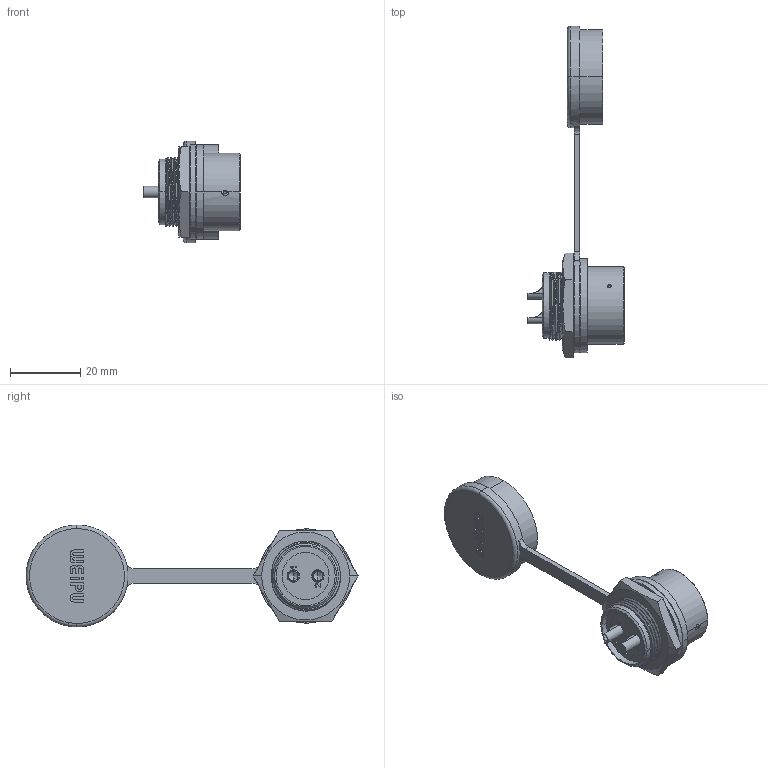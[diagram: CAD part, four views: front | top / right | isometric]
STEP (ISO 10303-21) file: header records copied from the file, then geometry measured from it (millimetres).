
FILE_DESCRIPTION((''),'2;1');
FILE_NAME('MS','2021-02-23T',('Administrator'),(''),'CREO PARAMETRIC BY PTC INC, 2016130','CREO PARAMETRIC BY PTC INC, 2016130','');
FILE_SCHEMA(('AUTOMOTIVE_DESIGN { 1 0 10303 214 1 1 1 1 }'));
Length unit declared in the file: millimetre
Products named in the file (1): MS
Bounding box: 27.3 x 94.4 x 29 mm (x, y, z)
Volume: 10753.9 mm3; surface area: 10498.1 mm2
Topology: 1 solids, 4 shells, 424 faces, 1182 edges, 780 vertices
Faces by surface type: plane 236, cylinder 111, cone 25, bspline 23, torus 15, sphere 14
Entity records: 18096 total; most frequent: CARTESIAN_POINT 7091, ORIENTED_EDGE 2332, DIRECTION 2167, EDGE_CURVE 1166, VERTEX_POINT 780, AXIS2_PLACEMENT_3D 763, VECTOR 641, LINE 641
